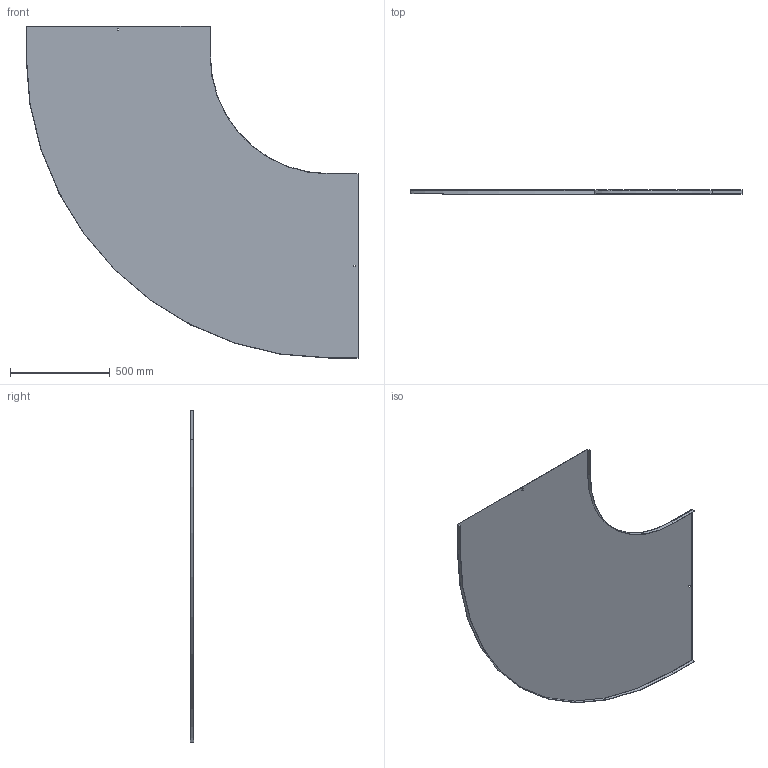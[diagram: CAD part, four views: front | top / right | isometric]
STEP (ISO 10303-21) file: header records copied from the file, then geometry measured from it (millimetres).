
FILE_DESCRIPTION (( 'STEP AP214' ), '1' );
FILE_NAME ('10N6P900.step', '2025-02-21T13:37:30', ( '' ), ( '' ), 'SwSTEP 2.0', 'SolidWorks 2023', '' );
FILE_SCHEMA (( 'AUTOMOTIVE_DESIGN' ));
Length unit declared in the file: millimetre
Products named in the file (1): 10N6P900
Bounding box: 1661.5 x 20 x 1661.5 mm (x, y, z)
Volume: 2806868.5 mm3; surface area: 3751312.4 mm2
Topology: 1 solids, 1 shells, 26 faces, 72 edges, 48 vertices
Faces by surface type: plane 22, cylinder 4
Entity records: 855 total; most frequent: CARTESIAN_POINT 147, ORIENTED_EDGE 144, DIRECTION 134, EDGE_CURVE 72, LINE 64, VECTOR 64, VERTEX_POINT 48, AXIS2_PLACEMENT_3D 35
